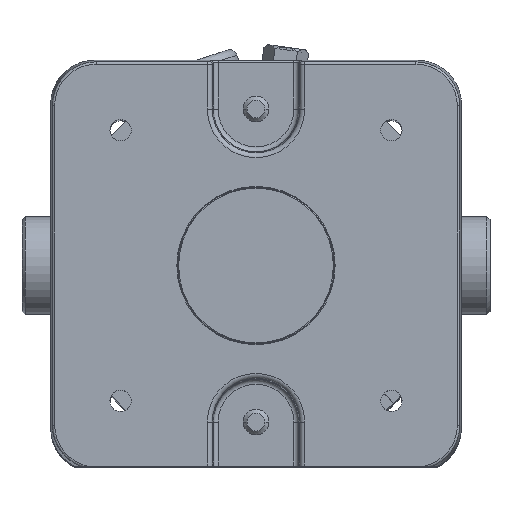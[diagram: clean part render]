
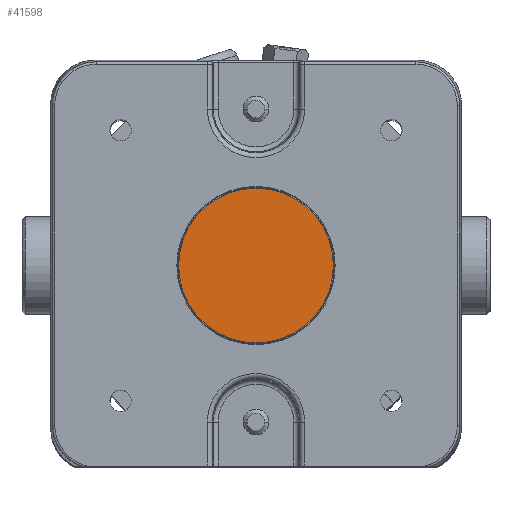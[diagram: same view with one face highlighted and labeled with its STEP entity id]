
A CAD part, top view. The second image highlights one B-rep face of the part: STEP entity #41598.
In plain terms, the highlighted planar face has unit normal (0, 0, 1).
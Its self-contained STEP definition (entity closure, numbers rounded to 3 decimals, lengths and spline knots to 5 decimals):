
#3458 = EDGE_LOOP ( 'NONE', ( #68379, #70705 ) ) ;
#10824 = CARTESIAN_POINT ( 'NONE',  ( 0.49476, 0., 6.4725 ) ) ;
#11204 = FACE_OUTER_BOUND ( 'NONE', #3458, .T. ) ;
#14929 = CIRCLE ( 'NONE', #22129, 0.49476 ) ;
#19626 = DIRECTION ( 'NONE',  ( 0., 0., 1. ) ) ;
#20319 = CIRCLE ( 'NONE', #57441, 0.49476 ) ;
#22129 = AXIS2_PLACEMENT_3D ( 'NONE', #84372, #19626, #70638 ) ;
#26863 = DIRECTION ( 'NONE',  ( 0., 0., 1. ) ) ;
#29341 = VERTEX_POINT ( 'NONE', #10824 ) ;
#33443 = EDGE_CURVE ( 'NONE', #38645, #29341, #20319, .T. ) ;
#34932 = AXIS2_PLACEMENT_3D ( 'NONE', #83382, #50324, #56825 ) ;
#38645 = VERTEX_POINT ( 'NONE', #71033 ) ;
#41598 = ADVANCED_FACE ( 'NONE', ( #11204 ), #75663, .T. ) ;
#50324 = DIRECTION ( 'NONE',  ( 0., 0., 1. ) ) ;
#53356 = CARTESIAN_POINT ( 'NONE',  ( 0., 0., 6.4725 ) ) ;
#53899 = DIRECTION ( 'NONE',  ( -1., 0., 0. ) ) ;
#56825 = DIRECTION ( 'NONE',  ( -1., 0., 0. ) ) ;
#57441 = AXIS2_PLACEMENT_3D ( 'NONE', #53356, #26863, #53899 ) ;
#61004 = EDGE_CURVE ( 'NONE', #29341, #38645, #14929, .T. ) ;
#68379 = ORIENTED_EDGE ( 'NONE', *, *, #33443, .T. ) ;
#70638 = DIRECTION ( 'NONE',  ( -1., 0., 0. ) ) ;
#70705 = ORIENTED_EDGE ( 'NONE', *, *, #61004, .T. ) ;
#71033 = CARTESIAN_POINT ( 'NONE',  ( -0.49476, 0., 6.4725 ) ) ;
#75663 = PLANE ( 'NONE',  #34932 ) ;
#83382 = CARTESIAN_POINT ( 'NONE',  ( 0., 0., 6.4725 ) ) ;
#84372 = CARTESIAN_POINT ( 'NONE',  ( 0., 0., 6.4725 ) ) ;
